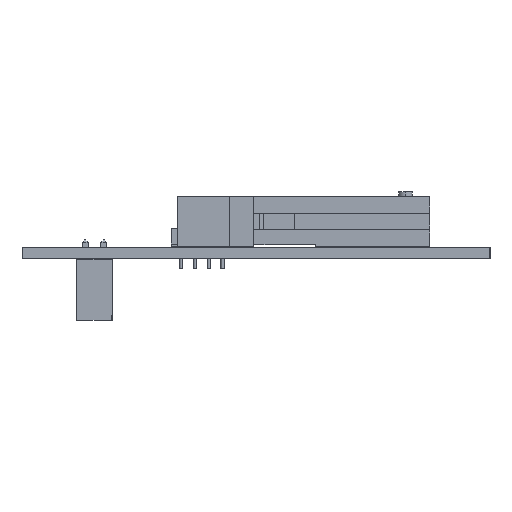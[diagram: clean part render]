
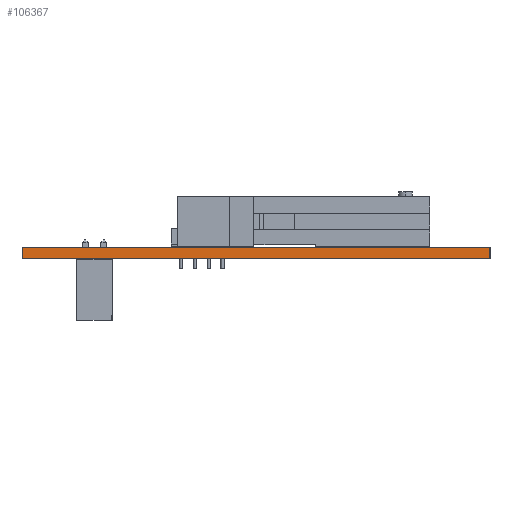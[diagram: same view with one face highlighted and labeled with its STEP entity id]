
A CAD part, left-side view. The second image highlights one B-rep face of the part: STEP entity #106367.
In plain terms, the highlighted planar face has unit normal (-1, 0, 0).
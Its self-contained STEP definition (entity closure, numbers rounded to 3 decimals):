
#106186 = PLANE('',#106187);
#106187 = AXIS2_PLACEMENT_3D('',#106188,#106189,#106190);
#106188 = CARTESIAN_POINT('',(210.,-115.,0.));
#106189 = DIRECTION('',(0.,-1.,0.));
#106190 = DIRECTION('',(-1.,0.,0.));
#106211 = VERTEX_POINT('',#106212);
#106212 = CARTESIAN_POINT('',(50.,-115.,1.6));
#106226 = PLANE('',#106227);
#106227 = AXIS2_PLACEMENT_3D('',#106228,#106229,#106230);
#106228 = CARTESIAN_POINT('',(130.,-82.5,1.6));
#106229 = DIRECTION('',(-0.,-0.,-1.));
#106230 = DIRECTION('',(-1.,0.,0.));
#106238 = EDGE_CURVE('',#106239,#106211,#106241,.T.);
#106239 = VERTEX_POINT('',#106240);
#106240 = CARTESIAN_POINT('',(50.,-115.,0.));
#106241 = SURFACE_CURVE('',#106242,(#106246,#106253),.PCURVE_S1.);
#106242 = LINE('',#106243,#106244);
#106243 = CARTESIAN_POINT('',(50.,-115.,0.));
#106244 = VECTOR('',#106245,1.);
#106245 = DIRECTION('',(0.,0.,1.));
#106246 = PCURVE('',#106186,#106247);
#106247 = DEFINITIONAL_REPRESENTATION('',(#106248),#106252);
#106248 = LINE('',#106249,#106250);
#106249 = CARTESIAN_POINT('',(160.,0.));
#106250 = VECTOR('',#106251,1.);
#106251 = DIRECTION('',(0.,-1.));
#106252 = ( GEOMETRIC_REPRESENTATION_CONTEXT(2) 
PARAMETRIC_REPRESENTATION_CONTEXT() REPRESENTATION_CONTEXT('2D SPACE',''
  ) );
#106253 = PCURVE('',#106254,#106259);
#106254 = PLANE('',#106255);
#106255 = AXIS2_PLACEMENT_3D('',#106256,#106257,#106258);
#106256 = CARTESIAN_POINT('',(50.,-115.,0.));
#106257 = DIRECTION('',(-1.,0.,0.));
#106258 = DIRECTION('',(0.,1.,0.));
#106259 = DEFINITIONAL_REPRESENTATION('',(#106260),#106264);
#106260 = LINE('',#106261,#106262);
#106261 = CARTESIAN_POINT('',(0.,0.));
#106262 = VECTOR('',#106263,1.);
#106263 = DIRECTION('',(0.,-1.));
#106264 = ( GEOMETRIC_REPRESENTATION_CONTEXT(2) 
PARAMETRIC_REPRESENTATION_CONTEXT() REPRESENTATION_CONTEXT('2D SPACE',''
  ) );
#106280 = PLANE('',#106281);
#106281 = AXIS2_PLACEMENT_3D('',#106282,#106283,#106284);
#106282 = CARTESIAN_POINT('',(130.,-82.5,0.));
#106283 = DIRECTION('',(-0.,-0.,-1.));
#106284 = DIRECTION('',(-1.,0.,0.));
#106313 = PLANE('',#106314);
#106314 = AXIS2_PLACEMENT_3D('',#106315,#106316,#106317);
#106315 = CARTESIAN_POINT('',(50.,-50.,0.));
#106316 = DIRECTION('',(0.,1.,0.));
#106317 = DIRECTION('',(1.,0.,0.));
#106367 = ADVANCED_FACE('',(#106368),#106254,.T.);
#106368 = FACE_BOUND('',#106369,.T.);
#106369 = EDGE_LOOP('',(#106370,#106371,#106394,#106417));
#106370 = ORIENTED_EDGE('',*,*,#106238,.T.);
#106371 = ORIENTED_EDGE('',*,*,#106372,.T.);
#106372 = EDGE_CURVE('',#106211,#106373,#106375,.T.);
#106373 = VERTEX_POINT('',#106374);
#106374 = CARTESIAN_POINT('',(50.,-50.,1.6));
#106375 = SURFACE_CURVE('',#106376,(#106380,#106387),.PCURVE_S1.);
#106376 = LINE('',#106377,#106378);
#106377 = CARTESIAN_POINT('',(50.,-115.,1.6));
#106378 = VECTOR('',#106379,1.);
#106379 = DIRECTION('',(0.,1.,0.));
#106380 = PCURVE('',#106254,#106381);
#106381 = DEFINITIONAL_REPRESENTATION('',(#106382),#106386);
#106382 = LINE('',#106383,#106384);
#106383 = CARTESIAN_POINT('',(0.,-1.6));
#106384 = VECTOR('',#106385,1.);
#106385 = DIRECTION('',(1.,0.));
#106386 = ( GEOMETRIC_REPRESENTATION_CONTEXT(2) 
PARAMETRIC_REPRESENTATION_CONTEXT() REPRESENTATION_CONTEXT('2D SPACE',''
  ) );
#106387 = PCURVE('',#106226,#106388);
#106388 = DEFINITIONAL_REPRESENTATION('',(#106389),#106393);
#106389 = LINE('',#106390,#106391);
#106390 = CARTESIAN_POINT('',(80.,-32.5));
#106391 = VECTOR('',#106392,1.);
#106392 = DIRECTION('',(0.,1.));
#106393 = ( GEOMETRIC_REPRESENTATION_CONTEXT(2) 
PARAMETRIC_REPRESENTATION_CONTEXT() REPRESENTATION_CONTEXT('2D SPACE',''
  ) );
#106394 = ORIENTED_EDGE('',*,*,#106395,.F.);
#106395 = EDGE_CURVE('',#106396,#106373,#106398,.T.);
#106396 = VERTEX_POINT('',#106397);
#106397 = CARTESIAN_POINT('',(50.,-50.,0.));
#106398 = SURFACE_CURVE('',#106399,(#106403,#106410),.PCURVE_S1.);
#106399 = LINE('',#106400,#106401);
#106400 = CARTESIAN_POINT('',(50.,-50.,0.));
#106401 = VECTOR('',#106402,1.);
#106402 = DIRECTION('',(0.,0.,1.));
#106403 = PCURVE('',#106254,#106404);
#106404 = DEFINITIONAL_REPRESENTATION('',(#106405),#106409);
#106405 = LINE('',#106406,#106407);
#106406 = CARTESIAN_POINT('',(65.,0.));
#106407 = VECTOR('',#106408,1.);
#106408 = DIRECTION('',(0.,-1.));
#106409 = ( GEOMETRIC_REPRESENTATION_CONTEXT(2) 
PARAMETRIC_REPRESENTATION_CONTEXT() REPRESENTATION_CONTEXT('2D SPACE',''
  ) );
#106410 = PCURVE('',#106313,#106411);
#106411 = DEFINITIONAL_REPRESENTATION('',(#106412),#106416);
#106412 = LINE('',#106413,#106414);
#106413 = CARTESIAN_POINT('',(0.,0.));
#106414 = VECTOR('',#106415,1.);
#106415 = DIRECTION('',(0.,-1.));
#106416 = ( GEOMETRIC_REPRESENTATION_CONTEXT(2) 
PARAMETRIC_REPRESENTATION_CONTEXT() REPRESENTATION_CONTEXT('2D SPACE',''
  ) );
#106417 = ORIENTED_EDGE('',*,*,#106418,.F.);
#106418 = EDGE_CURVE('',#106239,#106396,#106419,.T.);
#106419 = SURFACE_CURVE('',#106420,(#106424,#106431),.PCURVE_S1.);
#106420 = LINE('',#106421,#106422);
#106421 = CARTESIAN_POINT('',(50.,-115.,0.));
#106422 = VECTOR('',#106423,1.);
#106423 = DIRECTION('',(0.,1.,0.));
#106424 = PCURVE('',#106254,#106425);
#106425 = DEFINITIONAL_REPRESENTATION('',(#106426),#106430);
#106426 = LINE('',#106427,#106428);
#106427 = CARTESIAN_POINT('',(0.,0.));
#106428 = VECTOR('',#106429,1.);
#106429 = DIRECTION('',(1.,0.));
#106430 = ( GEOMETRIC_REPRESENTATION_CONTEXT(2) 
PARAMETRIC_REPRESENTATION_CONTEXT() REPRESENTATION_CONTEXT('2D SPACE',''
  ) );
#106431 = PCURVE('',#106280,#106432);
#106432 = DEFINITIONAL_REPRESENTATION('',(#106433),#106437);
#106433 = LINE('',#106434,#106435);
#106434 = CARTESIAN_POINT('',(80.,-32.5));
#106435 = VECTOR('',#106436,1.);
#106436 = DIRECTION('',(0.,1.));
#106437 = ( GEOMETRIC_REPRESENTATION_CONTEXT(2) 
PARAMETRIC_REPRESENTATION_CONTEXT() REPRESENTATION_CONTEXT('2D SPACE',''
  ) );
